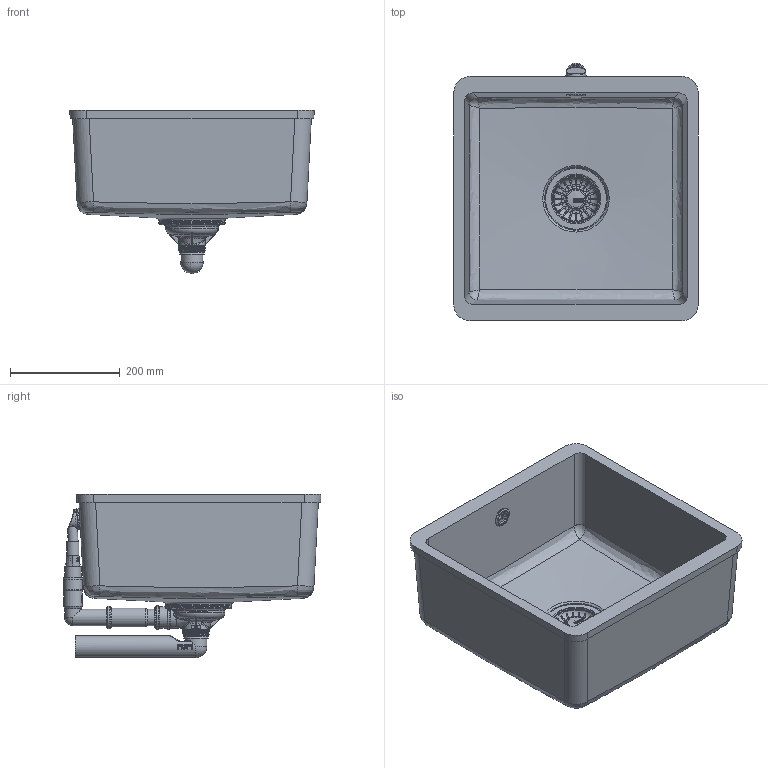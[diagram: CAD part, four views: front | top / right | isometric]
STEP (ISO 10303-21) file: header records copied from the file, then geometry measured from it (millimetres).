
FILE_DESCRIPTION(/* description */ ('KBK 110-40'),/* implementation_level */ '2;1');
FILE_NAME(/* name */ 'C:\Users\HY003\Desktop\40\KBK 110-40 SI.stp',/* time_stamp */ '2017-10-12T15:31:46+02:00',/* author */ ('HY003'),/* organization */ (''),/* preprocessor_version */ 'ST-DEVELOPER v16.1',/* originating_system */ 'Autodesk Inventor 2016',/* authorisation */ '');
FILE_SCHEMA (('AUTOMOTIVE_DESIGN { 1 0 10303 214 3 1 1 }'));
Length unit declared in the file: millimetre
Products named in the file (1): 0056-217297
Bounding box: 445 x 469.52 x 297 mm (x, y, z)
Volume: 23026.8 mm3; surface area: 1145809.7 mm2
Topology: 6 solids, 7 shells, 2802 faces, 7561 edges, 4830 vertices
Faces by surface type: plane 1404, bspline 572, cylinder 433, torus 224, cone 129, sphere 40
Full cylindrical faces by diameter (mm): 5 x1, 8 x2, 11 x1, 12.6 x1, 13.743 x1, 14.2 x1, 16 x1, 18.5 x1, 25 x1, 25.2 x1, 26 x4, 28.4 x1, 28.7 x1, 29.8 x1, 30 x7, 30.5 x1, 31 x1, 32 x1, 33.75 x1, 34 x2, 34.5 x1, 35.5 x2, 36 x1, 38 x1, 39 x2, 40 x2, 41 x1, 41.5 x1, 42 x1, 44.5 x1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
Entity records: 105168 total; most frequent: CARTESIAN_POINT 38837, ORIENTED_EDGE 14616, DIRECTION 12664, EDGE_CURVE 7305, AXIS2_PLACEMENT_3D 4883, VERTEX_POINT 4770, EDGE_LOOP 3139, LINE 2898
